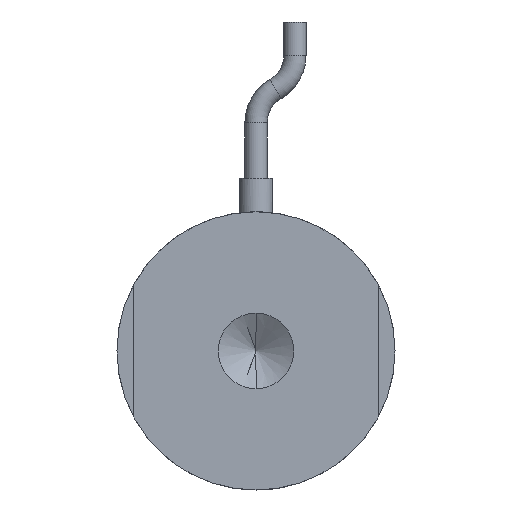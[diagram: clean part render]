
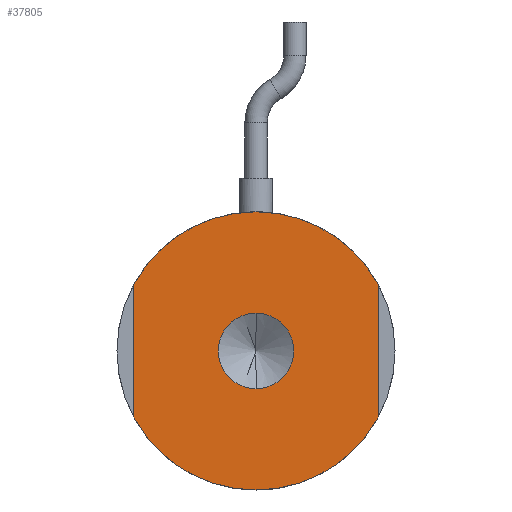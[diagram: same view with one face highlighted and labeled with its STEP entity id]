
A CAD part, front view. The second image highlights one B-rep face of the part: STEP entity #37805.
In plain terms, the highlighted planar face has unit normal (0, -1, 0).
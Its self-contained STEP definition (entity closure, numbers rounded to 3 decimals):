
#886 = VERTEX_POINT ( 'NONE', #32161 ) ;
#2094 = CIRCLE ( 'NONE', #43169, 3.4 ) ;
#3388 = DIRECTION ( 'NONE',  ( 0., 0., 1. ) ) ;
#4418 = VERTEX_POINT ( 'NONE', #20328 ) ;
#5294 = CARTESIAN_POINT ( 'NONE',  ( 0., 0., 0. ) ) ;
#5446 = VERTEX_POINT ( 'NONE', #15084 ) ;
#5769 = CARTESIAN_POINT ( 'NONE',  ( -11., 0., 0. ) ) ;
#5841 = EDGE_CURVE ( 'NONE', #36699, #5446, #6787, .T. ) ;
#5937 = DIRECTION ( 'NONE',  ( 0., 1., 0. ) ) ;
#6017 = CIRCLE ( 'NONE', #11523, 12.5 ) ;
#6176 = VECTOR ( 'NONE', #19724, 1000. ) ;
#6332 = ORIENTED_EDGE ( 'NONE', *, *, #26116, .F. ) ;
#6787 = CIRCLE ( 'NONE', #22818, 3.4 ) ;
#7426 = EDGE_LOOP ( 'NONE', ( #24613, #6332 ) ) ;
#8808 = DIRECTION ( 'NONE',  ( 0., 0., 1. ) ) ;
#8902 = EDGE_CURVE ( 'NONE', #886, #19908, #9655, .T. ) ;
#9655 = CIRCLE ( 'NONE', #25476, 12.5 ) ;
#9664 = PLANE ( 'NONE',  #28859 ) ;
#11130 = CARTESIAN_POINT ( 'NONE',  ( 0., 0., -3.4 ) ) ;
#11171 = ORIENTED_EDGE ( 'NONE', *, *, #8902, .F. ) ;
#11523 = AXIS2_PLACEMENT_3D ( 'NONE', #5294, #29440, #8808 ) ;
#11678 = ORIENTED_EDGE ( 'NONE', *, *, #37347, .F. ) ;
#13104 = DIRECTION ( 'NONE',  ( 0., 1., 0. ) ) ;
#13208 = LINE ( 'NONE', #25615, #31582 ) ;
#13742 = DIRECTION ( 'NONE',  ( 0., 1., 0. ) ) ;
#14227 = CARTESIAN_POINT ( 'NONE',  ( 0., 0., 12.5 ) ) ;
#15084 = CARTESIAN_POINT ( 'NONE',  ( 0., 0., 3.4 ) ) ;
#17455 = CARTESIAN_POINT ( 'NONE',  ( 0., 0., 0. ) ) ;
#19724 = DIRECTION ( 'NONE',  ( 0., 0., 1. ) ) ;
#19908 = VERTEX_POINT ( 'NONE', #35462 ) ;
#20328 = CARTESIAN_POINT ( 'NONE',  ( -11., 0., 5.937 ) ) ;
#20514 = CARTESIAN_POINT ( 'NONE',  ( 0., 0., 0. ) ) ;
#20905 = DIRECTION ( 'NONE',  ( 0., 0., -1. ) ) ;
#21246 = CARTESIAN_POINT ( 'NONE',  ( 11., 0., -5.937 ) ) ;
#21921 = FACE_BOUND ( 'NONE', #7426, .T. ) ;
#22456 = ORIENTED_EDGE ( 'NONE', *, *, #42437, .F. ) ;
#22818 = AXIS2_PLACEMENT_3D ( 'NONE', #17455, #41743, #20905 ) ;
#23985 = DIRECTION ( 'NONE',  ( 0., 0., -1. ) ) ;
#24058 = DIRECTION ( 'NONE',  ( 0., 1., 0. ) ) ;
#24613 = ORIENTED_EDGE ( 'NONE', *, *, #5841, .F. ) ;
#25029 = EDGE_CURVE ( 'NONE', #36211, #886, #6017, .T. ) ;
#25140 = ORIENTED_EDGE ( 'NONE', *, *, #41046, .F. ) ;
#25281 = EDGE_CURVE ( 'NONE', #35843, #43301, #37388, .T. ) ;
#25476 = AXIS2_PLACEMENT_3D ( 'NONE', #44912, #24058, #3388 ) ;
#25615 = CARTESIAN_POINT ( 'NONE',  ( 11., 0., 0. ) ) ;
#26116 = EDGE_CURVE ( 'NONE', #5446, #36699, #2094, .T. ) ;
#26579 = CARTESIAN_POINT ( 'NONE',  ( 0., 0., 0. ) ) ;
#27362 = CIRCLE ( 'NONE', #29718, 12.5 ) ;
#28859 = AXIS2_PLACEMENT_3D ( 'NONE', #33358, #13104, #37331 ) ;
#29111 = DIRECTION ( 'NONE',  ( 0., 0., -1. ) ) ;
#29440 = DIRECTION ( 'NONE',  ( 0., 1., 0. ) ) ;
#29718 = AXIS2_PLACEMENT_3D ( 'NONE', #26579, #5937, #30059 ) ;
#30059 = DIRECTION ( 'NONE',  ( 0., 0., 1. ) ) ;
#30066 = EDGE_LOOP ( 'NONE', ( #22456, #11171, #43672, #25140, #42588, #11678 ) ) ;
#31151 = FACE_OUTER_BOUND ( 'NONE', #30066, .T. ) ;
#31582 = VECTOR ( 'NONE', #29111, 1000. ) ;
#32161 = CARTESIAN_POINT ( 'NONE',  ( 0., 0., -12.5 ) ) ;
#33358 = CARTESIAN_POINT ( 'NONE',  ( 0., 0., 0. ) ) ;
#34440 = CARTESIAN_POINT ( 'NONE',  ( 0., 0., 0. ) ) ;
#34702 = AXIS2_PLACEMENT_3D ( 'NONE', #34440, #13742, #37959 ) ;
#35462 = CARTESIAN_POINT ( 'NONE',  ( -11., 0., -5.937 ) ) ;
#35843 = VERTEX_POINT ( 'NONE', #14227 ) ;
#36211 = VERTEX_POINT ( 'NONE', #21246 ) ;
#36699 = VERTEX_POINT ( 'NONE', #11130 ) ;
#37331 = DIRECTION ( 'NONE',  ( 0., 0., 1. ) ) ;
#37347 = EDGE_CURVE ( 'NONE', #4418, #35843, #27362, .T. ) ;
#37388 = CIRCLE ( 'NONE', #34702, 12.5 ) ;
#37805 = ADVANCED_FACE ( 'NONE', ( #21921, #31151 ), #9664, .F. ) ;
#37959 = DIRECTION ( 'NONE',  ( 0., 0., 1. ) ) ;
#39178 = CARTESIAN_POINT ( 'NONE',  ( 11., 0., 5.937 ) ) ;
#40824 = LINE ( 'NONE', #5769, #6176 ) ;
#41046 = EDGE_CURVE ( 'NONE', #43301, #36211, #13208, .T. ) ;
#41743 = DIRECTION ( 'NONE',  ( 0., -1., 0. ) ) ;
#42437 = EDGE_CURVE ( 'NONE', #19908, #4418, #40824, .T. ) ;
#42588 = ORIENTED_EDGE ( 'NONE', *, *, #25281, .F. ) ;
#43169 = AXIS2_PLACEMENT_3D ( 'NONE', #20514, #44838, #23985 ) ;
#43301 = VERTEX_POINT ( 'NONE', #39178 ) ;
#43672 = ORIENTED_EDGE ( 'NONE', *, *, #25029, .F. ) ;
#44838 = DIRECTION ( 'NONE',  ( 0., -1., 0. ) ) ;
#44912 = CARTESIAN_POINT ( 'NONE',  ( 0., 0., 0. ) ) ;
